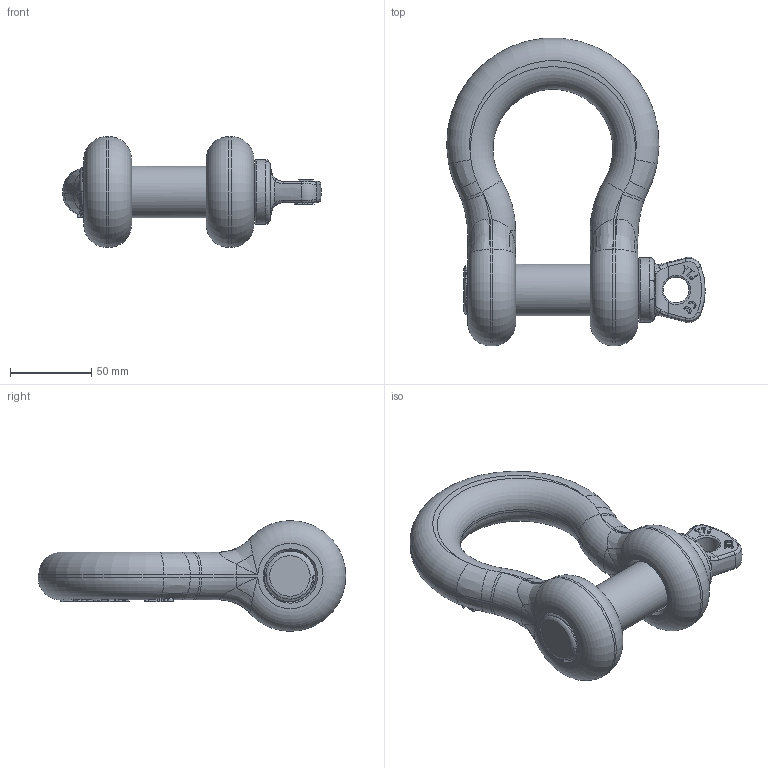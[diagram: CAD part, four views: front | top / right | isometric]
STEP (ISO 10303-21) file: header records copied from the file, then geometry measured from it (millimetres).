
FILE_DESCRIPTION(/* description */ (''),/* implementation_level */ '2;1');
FILE_NAME(/* name */ 'G-209A-1-1-8.stp',/* time_stamp */ '2025-04-08T08:18:15+08:00',/* author */ (''),/* organization */ (''),/* preprocessor_version */ 'ST-DEVELOPER v16',/* originating_system */ 'SIEMENS PLM Software NX 10.0',/* authorisation */ '');
FILE_SCHEMA (('AP203_CONFIGURATION_CONTROLLED_3D_DESIGN_OF_MECHANICAL_PARTS_AND_ASSEMBLIES_MIM_LF { 1 0 10303 403 2 1 2}'));
Length unit declared in the file: millimetre
Products named in the file (1): Admi20FC52B4dhoh
Bounding box: 159.49 x 189.76 x 68.28 mm (x, y, z)
Volume: 442734.8 mm3; surface area: 69923.2 mm2
Topology: 2 solids, 2 shells, 584 faces, 1596 edges, 1025 vertices
Faces by surface type: plane 237, extrusion 153, bspline 78, cylinder 69, torus 38, cone 8, sphere 1
Full cylindrical faces by diameter (mm): 16 x1, 32 x7, 34 x1, 40 x1
Entity records: 25337 total; most frequent: CARTESIAN_POINT 12462, ORIENTED_EDGE 3090, DIRECTION 1880, EDGE_CURVE 1545, VERTEX_POINT 1001, B_SPLINE_CURVE_WITH_KNOTS 939, VECTOR 638, AXIS2_PLACEMENT_3D 621
